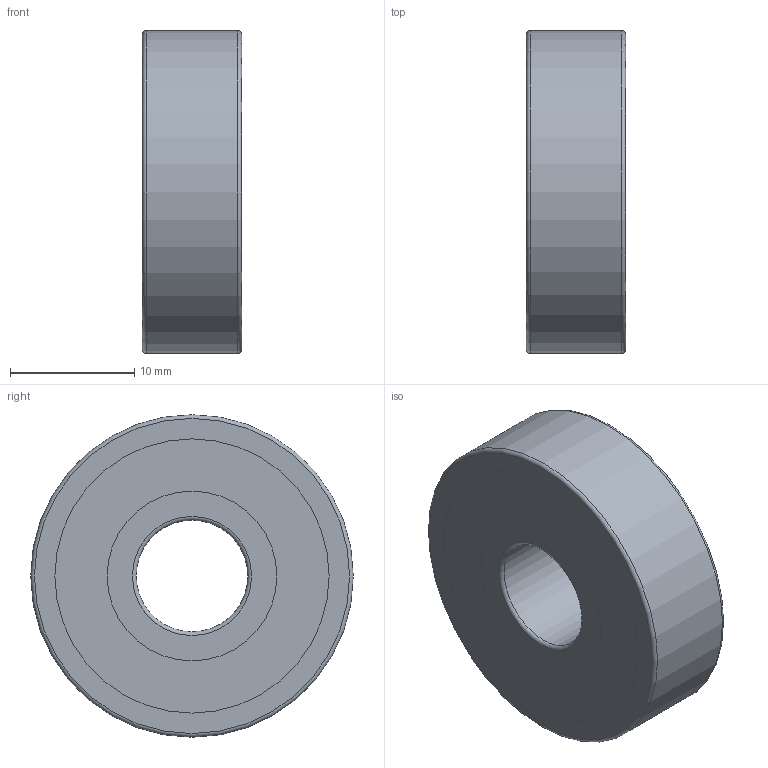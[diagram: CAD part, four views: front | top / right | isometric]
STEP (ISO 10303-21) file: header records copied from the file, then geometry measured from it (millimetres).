
FILE_DESCRIPTION(/* description */ (''),/* implementation_level */ '2;1');
FILE_NAME(/* name */ 'D:\moje\parametrické\62-,60-\rada 62-,60-2ZR\62-,60--2ZR\629-2ZR.stp',/* time_stamp */ '2016-04-04T13:40:43+02:00',/* author */ ('OUBALASKO'),/* organization */ (''),/* preprocessor_version */ 'ST-DEVELOPER v15.2',/* originating_system */ 'Autodesk Inventor 2014',/* authorisation */ '');
FILE_SCHEMA (('AUTOMOTIVE_DESIGN { 1 0 10303 214 3 1 1 }'));
Length unit declared in the file: millimetre
Products named in the file (6): 629-02-2ZR; 629-ball; 629-cage; 629-01-2ZR; 629-seal-RSR,ZR; 629-2ZR
Bounding box: 8 x 26 x 26 mm (x, y, z)
Volume: 2628.7 mm3; surface area: 4391 mm2
Topology: 14 solids, 14 shells, 104 faces, 366 edges, 240 vertices
Faces by surface type: plane 42, sphere 40, cylinder 16, torus 6
Full cylindrical faces by diameter (mm): 9 x1, 13.69 x4, 16.071 x2, 18.929 x2, 21.31 x2, 22.11 x4, 26 x1
Entity records: 2464 total; most frequent: CARTESIAN_POINT 962, DIRECTION 336, ORIENTED_EDGE 242, AXIS2_PLACEMENT_3D 168, EDGE_CURVE 121, VERTEX_POINT 90, CIRCLE 89, EDGE_LOOP 85
